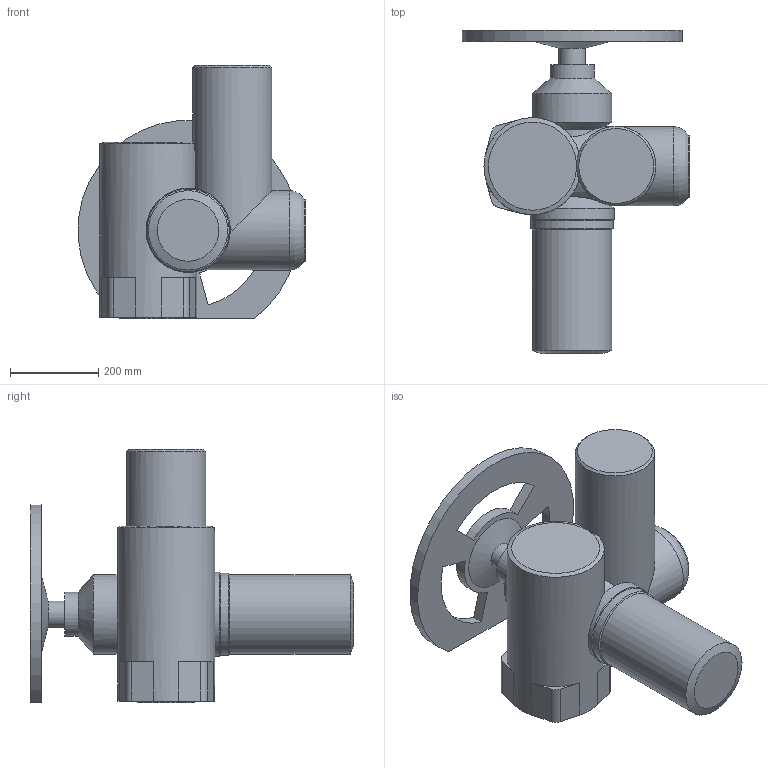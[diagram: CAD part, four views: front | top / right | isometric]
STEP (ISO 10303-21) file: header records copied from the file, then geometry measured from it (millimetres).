
FILE_DESCRIPTION(('STEP AP203'), '1');
FILE_NAME('Ýëåêòðîïðèâîä ÌÒ903.À80 áåç áëîêà óïðàâëåíèÿ', '', ('UNSPECIFIED'), ('UNSPECIFIED'), 'ASCON STEP Converter 1.6', 'ASCON Math Kernel', '');
FILE_SCHEMA(('CONFIG_CONTROL_DESIGN'));
Length unit declared in the file: millimetre
Bounding box: 516.46 x 733 x 574 mm (x, y, z)
Volume: 44079254.3 mm3; surface area: 1296227.7 mm2
Topology: 1 solids, 1 shells, 76 faces, 193 edges, 126 vertices
Faces by surface type: plane 36, cylinder 30, cone 9, torus 1
Full cylindrical faces by diameter (mm): 17.5 x4, 60 x1, 100 x1, 130 x1, 140 x1, 180 x4, 187 x1, 191 x1, 220 x1
Entity records: 3844 total; most frequent: CARTESIAN_POINT 1437, DIRECTION 368, ORIENTED_EDGE 336, EDGE_CURVE 168, AXIS2_PLACEMENT_3D 146, VERTEX_POINT 125, EDGE_LOOP 113, COLOUR_RGB 77
